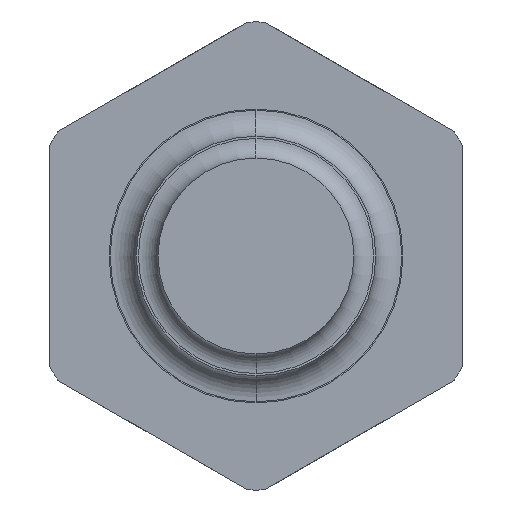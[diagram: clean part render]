
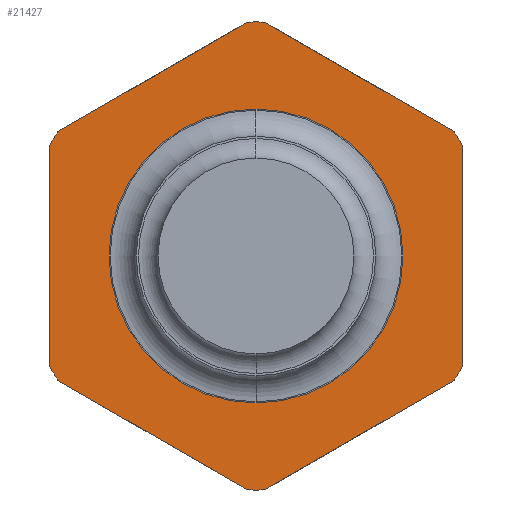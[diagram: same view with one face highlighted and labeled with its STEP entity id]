
A CAD part, front view. The second image highlights one B-rep face of the part: STEP entity #21427.
In plain terms, the highlighted planar face has unit normal (0, -1, 0).
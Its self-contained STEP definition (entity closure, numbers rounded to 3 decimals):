
#66 = LINE ( 'NONE', #4503, #27463 ) ;
#266 = CIRCLE ( 'NONE', #10933, 10.75 ) ;
#791 = DIRECTION ( 'NONE',  ( 0., -1., 0. ) ) ;
#1027 = DIRECTION ( 'NONE',  ( 1., 0., 0. ) ) ;
#1265 = ORIENTED_EDGE ( 'NONE', *, *, #28107, .T. ) ;
#1611 = LINE ( 'NONE', #11296, #24699 ) ;
#2098 = DIRECTION ( 'NONE',  ( 0., -1., 0. ) ) ;
#2361 = EDGE_CURVE ( 'NONE', #13082, #10745, #18099, .T. ) ;
#3147 = CIRCLE ( 'NONE', #26551, 10.75 ) ;
#3966 = DIRECTION ( 'NONE',  ( 0.866, 0., 0.5 ) ) ;
#4048 = PLANE ( 'NONE',  #21529 ) ;
#4111 = CARTESIAN_POINT ( 'NONE',  ( 9.475, 0., -5.499 ) ) ;
#4346 = CARTESIAN_POINT ( 'NONE',  ( -9.5, 0., -5.031 ) ) ;
#4503 = CARTESIAN_POINT ( 'NONE',  ( -0.025, 0., 10.955 ) ) ;
#5174 = VECTOR ( 'NONE', #11880, 1000. ) ;
#5881 = CARTESIAN_POINT ( 'NONE',  ( 0., 0., 0. ) ) ;
#6236 = CARTESIAN_POINT ( 'NONE',  ( -0.393, 0., -10.743 ) ) ;
#6579 = CARTESIAN_POINT ( 'NONE',  ( 6.3, 0., 0. ) ) ;
#7252 = EDGE_CURVE ( 'NONE', #29966, #24757, #1611, .T. ) ;
#8029 = CARTESIAN_POINT ( 'NONE',  ( 9.5, 0., 5.031 ) ) ;
#8341 = EDGE_CURVE ( 'NONE', #19526, #14066, #266, .T. ) ;
#8376 = EDGE_CURVE ( 'NONE', #13949, #29966, #27238, .T. ) ;
#8662 = EDGE_CURVE ( 'NONE', #13415, #9780, #10634, .T. ) ;
#9032 = LINE ( 'NONE', #4111, #26018 ) ;
#9331 = VERTEX_POINT ( 'NONE', #26813 ) ;
#9402 = EDGE_LOOP ( 'NONE', ( #26438, #22203, #24576, #31063, #16163, #28233, #20924, #14371, #29238, #26162, #15050, #1265 ) ) ;
#9780 = VERTEX_POINT ( 'NONE', #6236 ) ;
#10129 = DIRECTION ( 'NONE',  ( 0., -1., 0. ) ) ;
#10160 = CARTESIAN_POINT ( 'NONE',  ( 0., 0., 0. ) ) ;
#10506 = CARTESIAN_POINT ( 'NONE',  ( 9.5, 0., -5.031 ) ) ;
#10634 = LINE ( 'NONE', #20367, #12956 ) ;
#10745 = VERTEX_POINT ( 'NONE', #13153 ) ;
#10933 = AXIS2_PLACEMENT_3D ( 'NONE', #10160, #19888, #29614 ) ;
#11252 = AXIS2_PLACEMENT_3D ( 'NONE', #5881, #30241, #17654 ) ;
#11296 = CARTESIAN_POINT ( 'NONE',  ( 9.5, 0., 0. ) ) ;
#11778 = CARTESIAN_POINT ( 'NONE',  ( 0.393, 0., -10.743 ) ) ;
#11880 = DIRECTION ( 'NONE',  ( 0., 0., -1. ) ) ;
#12105 = EDGE_CURVE ( 'NONE', #9331, #13082, #21926, .T. ) ;
#12927 = AXIS2_PLACEMENT_3D ( 'NONE', #13418, #20774, #1027 ) ;
#12931 = EDGE_CURVE ( 'NONE', #24757, #9331, #21594, .T. ) ;
#12956 = VECTOR ( 'NONE', #17958, 1000. ) ;
#13082 = VERTEX_POINT ( 'NONE', #13376 ) ;
#13153 = CARTESIAN_POINT ( 'NONE',  ( -0.393, 0., 10.743 ) ) ;
#13376 = CARTESIAN_POINT ( 'NONE',  ( 0.393, 0., 10.743 ) ) ;
#13415 = VERTEX_POINT ( 'NONE', #21983 ) ;
#13418 = CARTESIAN_POINT ( 'NONE',  ( 0., 0., 0. ) ) ;
#13730 = EDGE_CURVE ( 'NONE', #9780, #27417, #26531, .T. ) ;
#13949 = VERTEX_POINT ( 'NONE', #16037 ) ;
#14015 = CARTESIAN_POINT ( 'NONE',  ( 0., 0., 0. ) ) ;
#14066 = VERTEX_POINT ( 'NONE', #24487 ) ;
#14105 = CARTESIAN_POINT ( 'NONE',  ( -9.5, 0., 0. ) ) ;
#14367 = EDGE_CURVE ( 'NONE', #25781, #13415, #3147, .T. ) ;
#14371 = ORIENTED_EDGE ( 'NONE', *, *, #7252, .T. ) ;
#15050 = ORIENTED_EDGE ( 'NONE', *, *, #2361, .T. ) ;
#15547 = AXIS2_PLACEMENT_3D ( 'NONE', #14015, #2098, #23755 ) ;
#16037 = CARTESIAN_POINT ( 'NONE',  ( 9.107, 0., -5.712 ) ) ;
#16122 = DIRECTION ( 'NONE',  ( 1., 0., 0. ) ) ;
#16163 = ORIENTED_EDGE ( 'NONE', *, *, #13730, .T. ) ;
#16295 = CARTESIAN_POINT ( 'NONE',  ( -9.107, 0., 5.712 ) ) ;
#16591 = FACE_OUTER_BOUND ( 'NONE', #9402, .T. ) ;
#16599 = DIRECTION ( 'NONE',  ( -0.866, 0., -0.5 ) ) ;
#16797 = DIRECTION ( 'NONE',  ( -0.866, 0., 0.5 ) ) ;
#17654 = DIRECTION ( 'NONE',  ( 1., 0., 0. ) ) ;
#17958 = DIRECTION ( 'NONE',  ( 0.866, 0., -0.5 ) ) ;
#18099 = CIRCLE ( 'NONE', #15547, 10.75 ) ;
#19371 = LINE ( 'NONE', #14105, #5174 ) ;
#19526 = VERTEX_POINT ( 'NONE', #16295 ) ;
#19888 = DIRECTION ( 'NONE',  ( 0., -1., 0. ) ) ;
#20053 = CARTESIAN_POINT ( 'NONE',  ( 0., 0., 0. ) ) ;
#20367 = CARTESIAN_POINT ( 'NONE',  ( -0.025, 0., -10.955 ) ) ;
#20774 = DIRECTION ( 'NONE',  ( 0., -1., 0. ) ) ;
#20924 = ORIENTED_EDGE ( 'NONE', *, *, #8376, .T. ) ;
#21027 = DIRECTION ( 'NONE',  ( 0., 0., 1. ) ) ;
#21427 = ADVANCED_FACE ( 'NONE', ( #16591 ), #4048, .T. ) ;
#21529 = AXIS2_PLACEMENT_3D ( 'NONE', #6579, #26345, #16122 ) ;
#21594 = CIRCLE ( 'NONE', #12927, 10.75 ) ;
#21926 = LINE ( 'NONE', #27024, #29364 ) ;
#21983 = CARTESIAN_POINT ( 'NONE',  ( -9.107, 0., -5.712 ) ) ;
#22203 = ORIENTED_EDGE ( 'NONE', *, *, #31145, .T. ) ;
#23755 = DIRECTION ( 'NONE',  ( 1., 0., 0. ) ) ;
#24487 = CARTESIAN_POINT ( 'NONE',  ( -9.5, 0., 5.031 ) ) ;
#24576 = ORIENTED_EDGE ( 'NONE', *, *, #14367, .T. ) ;
#24699 = VECTOR ( 'NONE', #21027, 1000. ) ;
#24757 = VERTEX_POINT ( 'NONE', #8029 ) ;
#25285 = DIRECTION ( 'NONE',  ( 1., 0., 0. ) ) ;
#25781 = VERTEX_POINT ( 'NONE', #4346 ) ;
#25956 = EDGE_CURVE ( 'NONE', #27417, #13949, #9032, .T. ) ;
#26018 = VECTOR ( 'NONE', #3966, 1000. ) ;
#26162 = ORIENTED_EDGE ( 'NONE', *, *, #12105, .T. ) ;
#26345 = DIRECTION ( 'NONE',  ( 0., -1., 0. ) ) ;
#26438 = ORIENTED_EDGE ( 'NONE', *, *, #8341, .T. ) ;
#26531 = CIRCLE ( 'NONE', #11252, 10.75 ) ;
#26551 = AXIS2_PLACEMENT_3D ( 'NONE', #27667, #10129, #25285 ) ;
#26813 = CARTESIAN_POINT ( 'NONE',  ( 9.107, 0., 5.712 ) ) ;
#27024 = CARTESIAN_POINT ( 'NONE',  ( 9.475, 0., 5.499 ) ) ;
#27214 = AXIS2_PLACEMENT_3D ( 'NONE', #20053, #791, #29774 ) ;
#27238 = CIRCLE ( 'NONE', #27214, 10.75 ) ;
#27417 = VERTEX_POINT ( 'NONE', #11778 ) ;
#27463 = VECTOR ( 'NONE', #16599, 1000. ) ;
#27667 = CARTESIAN_POINT ( 'NONE',  ( 0., 0., 0. ) ) ;
#28107 = EDGE_CURVE ( 'NONE', #10745, #19526, #66, .T. ) ;
#28233 = ORIENTED_EDGE ( 'NONE', *, *, #25956, .T. ) ;
#29238 = ORIENTED_EDGE ( 'NONE', *, *, #12931, .T. ) ;
#29364 = VECTOR ( 'NONE', #16797, 1000. ) ;
#29614 = DIRECTION ( 'NONE',  ( 1., 0., 0. ) ) ;
#29774 = DIRECTION ( 'NONE',  ( 1., 0., 0. ) ) ;
#29966 = VERTEX_POINT ( 'NONE', #10506 ) ;
#30241 = DIRECTION ( 'NONE',  ( 0., -1., 0. ) ) ;
#31063 = ORIENTED_EDGE ( 'NONE', *, *, #8662, .T. ) ;
#31145 = EDGE_CURVE ( 'NONE', #14066, #25781, #19371, .T. ) ;
